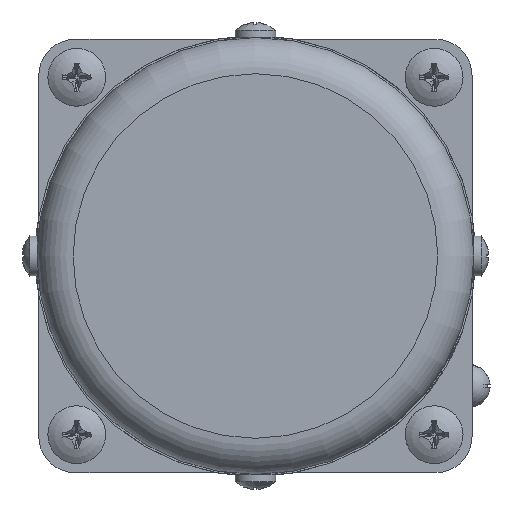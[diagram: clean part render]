
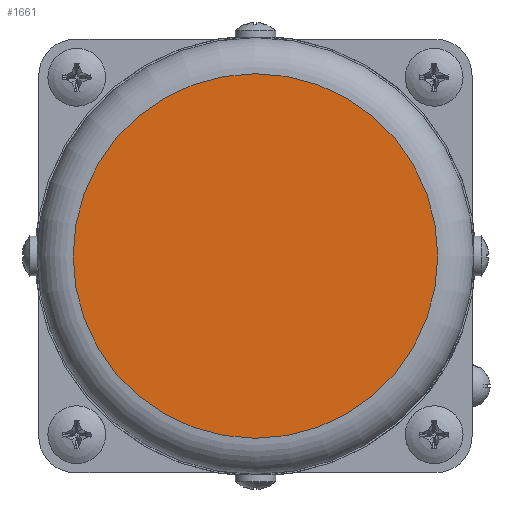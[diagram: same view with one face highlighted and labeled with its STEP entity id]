
A CAD part, left-side view. The second image highlights one B-rep face of the part: STEP entity #1661.
In plain terms, the highlighted planar face has unit normal (-1, 0, 0).
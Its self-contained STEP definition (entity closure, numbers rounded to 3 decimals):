
#1661=ADVANCED_FACE('',(#2280),#2040,.T.);
#2040=PLANE('',#8499);
#2280=FACE_OUTER_BOUND('',#2700,.T.);
#2700=EDGE_LOOP('',(#4083));
#4083=ORIENTED_EDGE('',*,*,#6418,.T.);
#5660=VERTEX_POINT('',#11702);
#6418=EDGE_CURVE('',#5660,#5660,#7861,.T.);
#7861=CIRCLE('',#8498,25.25);
#8498=AXIS2_PLACEMENT_3D('',#11701,#9495,#9496);
#8499=AXIS2_PLACEMENT_3D('',#11703,#9497,#9498);
#9495=DIRECTION('',(-1.,0.,0.));
#9496=DIRECTION('',(0.,-1.,0.));
#9497=DIRECTION('',(-1.,0.,0.));
#9498=DIRECTION('',(0.,-1.,0.));
#11701=CARTESIAN_POINT('',(-111.,0.,0.));
#11702=CARTESIAN_POINT('',(-111.,-25.25,0.));
#11703=CARTESIAN_POINT('',(-111.,0.,0.));
